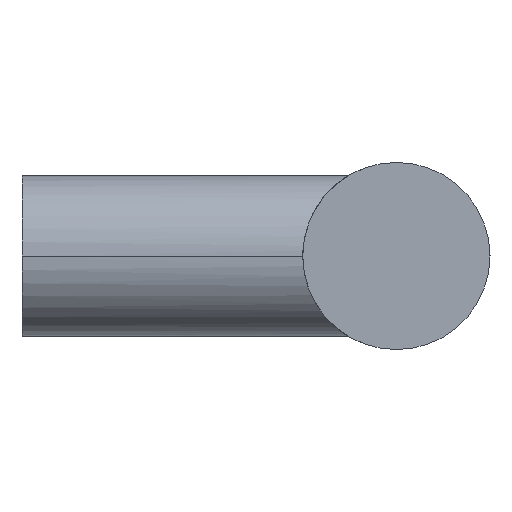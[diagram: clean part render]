
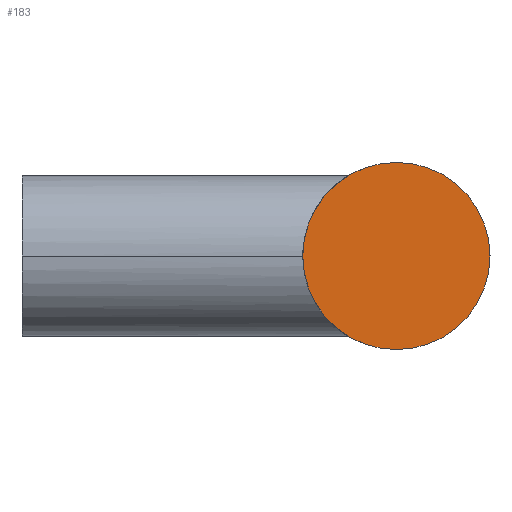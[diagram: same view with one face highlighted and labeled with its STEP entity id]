
A CAD part, left-side view. The second image highlights one B-rep face of the part: STEP entity #183.
In plain terms, the highlighted planar face has unit normal (-1, 0, 0).
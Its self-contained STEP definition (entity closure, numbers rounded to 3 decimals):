
#141 = EDGE_CURVE( '', #199, #203, #304, .T. );
#183 = ADVANCED_FACE( '', ( #353 ), #354, .F. );
#199 = VERTEX_POINT( '', #370 );
#203 = VERTEX_POINT( '', #374 );
#235 = EDGE_CURVE( '', #203, #199, #413, .T. );
#304 = CIRCLE( '', #517, 7. );
#353 = FACE_OUTER_BOUND( '', #613, .T. );
#354 = PLANE( '', #614 );
#370 = CARTESIAN_POINT( '', ( -31., -28., 7. ) );
#374 = CARTESIAN_POINT( '', ( -31., -28., -7. ) );
#413 = CIRCLE( '', #756, 7. );
#517 = AXIS2_PLACEMENT_3D( '', #808, #809, #810 );
#613 = EDGE_LOOP( '', ( #873, #874 ) );
#614 = AXIS2_PLACEMENT_3D( '', #875, #876, #877 );
#756 = AXIS2_PLACEMENT_3D( '', #942, #943, #944 );
#808 = CARTESIAN_POINT( '', ( -31., -28., 0. ) );
#809 = DIRECTION( '', ( 1., 0., 0. ) );
#810 = DIRECTION( '', ( 0., 0., -1. ) );
#873 = ORIENTED_EDGE( '', *, *, #235, .F. );
#874 = ORIENTED_EDGE( '', *, *, #141, .F. );
#875 = CARTESIAN_POINT( '', ( -31., 0., 0. ) );
#876 = DIRECTION( '', ( 1., 0., 0. ) );
#877 = DIRECTION( '', ( 0., 0., -1. ) );
#942 = CARTESIAN_POINT( '', ( -31., -28., 0. ) );
#943 = DIRECTION( '', ( 1., 0., 0. ) );
#944 = DIRECTION( '', ( 0., 0., -1. ) );
